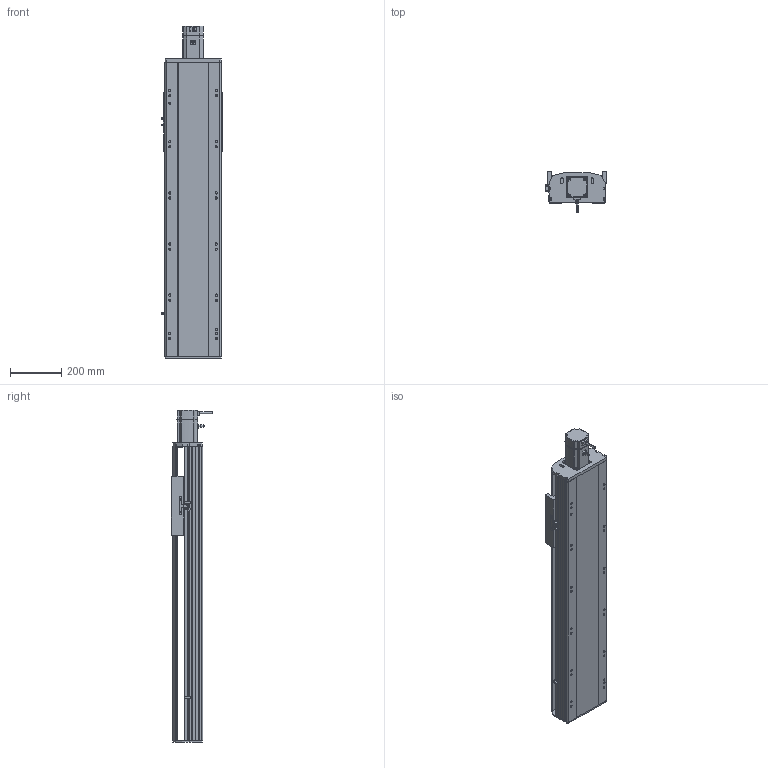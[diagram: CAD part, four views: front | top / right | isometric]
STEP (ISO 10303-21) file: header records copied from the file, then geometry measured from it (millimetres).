
FILE_DESCRIPTION (( 'STEP AP214' ), '1' );
FILE_NAME ('RTH22-XX-750-E-M75-C4.STEP', '2025-10-24T10:45:35', ( 'Microsoft' ), ( 'Microsoft' ), 'SwSTEP 2.0', 'SolidWorks 2018', '' );
FILE_SCHEMA (( 'AUTOMOTIVE_DESIGN' ));
Length unit declared in the file: millimetre
Products named in the file (9): N_RTH22-GY-001耜裔^RTH22-XX-XX-E-M75-C4; N_RTH22-E-011菁釱^RTH22-XX-XX-E-M75-C4; N_OMRON EE-SX672 传感器^RTH22-XX-XX-E-M75-C4; RTH22-XX-750-E-M75-C4; N_750W萇儂^RTH22-XX-XX-E-M75-C4; N_RTH22-GY-013外置感应片^RTH22-XX-XX-E-M75-C4; N_RTH22-E-004-SFS25賑釱^RTH22-XX-XX-E-M75-C4; N_RTH22-E-007奻裔^RTH22-XX-XX-E-M75-C4; N_RTH22-E-008萇儂啣^RTH22-XX-XX-E-M75-C4
Assembly tree (10 placements, depth 2):
  RTH22-XX-750-E-M75-C4
    N_RTH22-E-011菁釱^RTH22-XX-XX-E-M75-C4
    N_RTH22-GY-001耜裔^RTH22-XX-XX-E-M75-C4
    N_RTH22-E-008萇儂啣^RTH22-XX-XX-E-M75-C4
    N_RTH22-E-007奻裔^RTH22-XX-XX-E-M75-C4
    N_RTH22-GY-013外置感应片^RTH22-XX-XX-E-M75-C4
    N_RTH22-E-004-SFS25賑釱^RTH22-XX-XX-E-M75-C4
    N_750W萇儂^RTH22-XX-XX-E-M75-C4
    N_OMRON EE-SX672 传感器^RTH22-XX-XX-E-M75-C4  x3
Bounding box: 238.5 x 160.7 x 1299 mm (x, y, z)
Volume: 16504664.6 mm3; surface area: 1720388.4 mm2
Topology: 10 solids, 10 shells, 1523 faces, 4174 edges, 2699 vertices
Faces by surface type: plane 754, cylinder 436, bspline 279, cone 54
Entity records: 37889 total; most frequent: CARTESIAN_POINT 11913, ORIENTED_EDGE 5332, DIRECTION 4992, EDGE_CURVE 2666, VERTEX_POINT 1735, AXIS2_PLACEMENT_3D 1674, VECTOR 1644, LINE 1644
